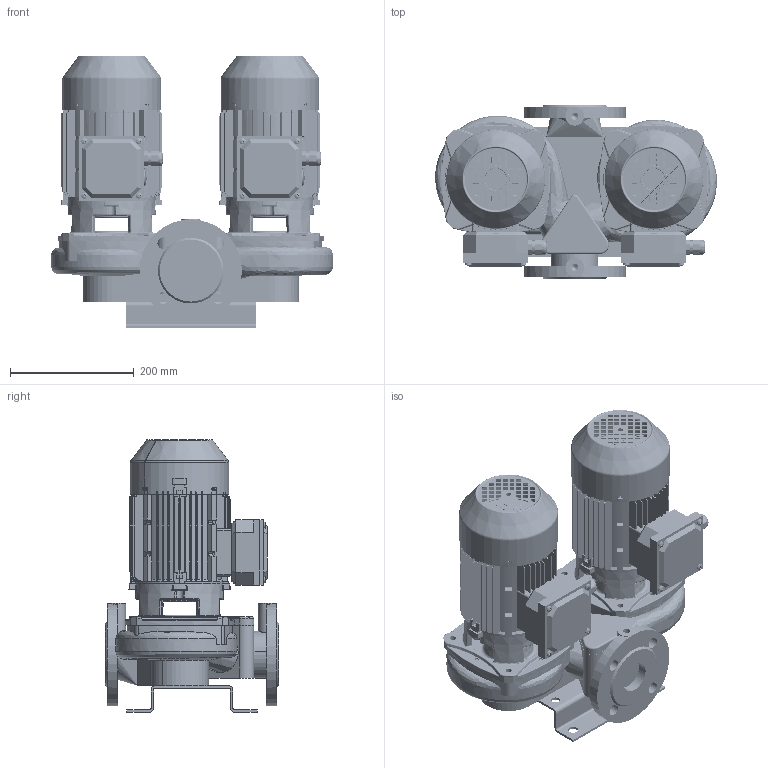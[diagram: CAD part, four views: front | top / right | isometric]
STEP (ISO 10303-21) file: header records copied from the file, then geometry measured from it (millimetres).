
FILE_DESCRIPTION(('STEP AP214'),'1');
FILE_NAME('export.stp','2018-05-30T07:41:18',(' '),(' '),'Spatial InterOp 3D',' ',' ');
FILE_SCHEMA(('AUTOMOTIVE_DESIGN { 1 0 10303 214 1 1 1 1 }'));
Length unit declared in the file: millimetre
Products named in the file (34): W_T50B2110_KP80; V_TLL50ABC; V_PPT50ABC; V_JALKA35973; 160031; 160001; V_MKP80-2_F15; M5x8_DIN; DIN_7985-M5X8; 160141; M5x12_DIN; DIN_7985-M5X12; 160137; 160138; 160139; 160140; Koura_Ale_M5; Plug_Blind_M20; Sealing_Plug_M20; plain_washer_grade_a_din_Washer_; 160039___; 160040___; 160133
Assembly tree (54 placements, depth 5):
  W_T50B2110_KP80
    V_TLL50ABC  x2
    V_PPT50ABC
    V_JALKA35973
    V_MKP80-2_F15
      160031
        160001
      160141
        M5x8_DIN
          DIN_7985-M5X8
        M5x12_DIN
          DIN_7985-M5X12
        M5x12_DIN
          DIN_7985-M5X12
        M5x12_DIN
          DIN_7985-M5X12
        M5x12_DIN
          DIN_7985-M5X12
        160137
        160138
        160139
        160140
        Koura_Ale_M5
        Plug_Blind_M20
        Sealing_Plug_M20
        plain_washer_grade_a_din_Washer_
      160039___
      160040___
      160133
    V_MKP80-2_F15
      160031
        160001
      160141
        M5x8_DIN
          DIN_7985-M5X8
        M5x12_DIN
          DIN_7985-M5X12
        M5x12_DIN
          DIN_7985-M5X12
        M5x12_DIN
          DIN_7985-M5X12
        M5x12_DIN
          DIN_7985-M5X12
        160137
        160138
        160139
        160140
        Koura_Ale_M5
        Plug_Blind_M20
        Sealing_Plug_M20
        plain_washer_grade_a_din_Washer_
      160039___
      160040___
      160133
Bounding box: 454.41 x 280 x 439.5 mm (x, y, z)
Volume: 10986128.2 mm3; surface area: 3339949.3 mm2
Topology: 38 solids, 38 shells, 5410 faces, 14139 edges, 8790 vertices
Faces by surface type: plane 2024, cylinder 1633, bspline 691, torus 632, cone 312, sphere 118
Entity records: 112942 total; most frequent: CARTESIAN_POINT 43076, ORIENTED_EDGE 14346, DIRECTION 13266, EDGE_CURVE 7173, AXIS2_PLACEMENT_3D 5117, VERTEX_POINT 4497, EDGE_LOOP 3080, LINE 3032
